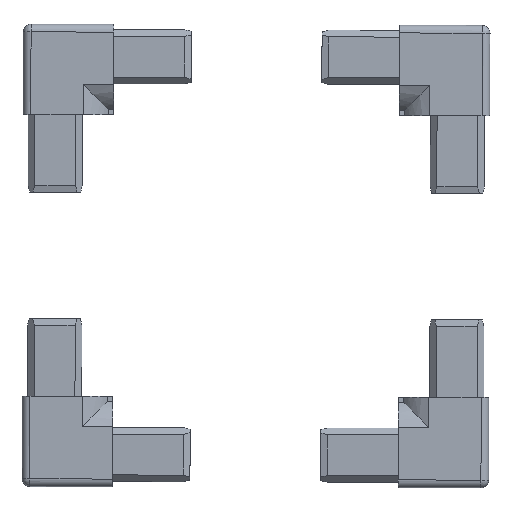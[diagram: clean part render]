
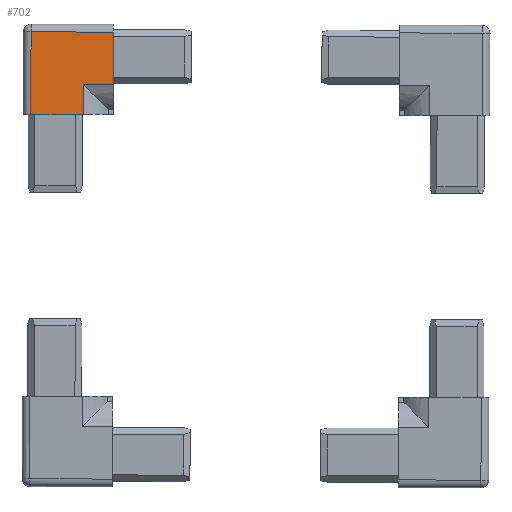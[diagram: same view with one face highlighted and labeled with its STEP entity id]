
A CAD part, left-side view. The second image highlights one B-rep face of the part: STEP entity #702.
In plain terms, the highlighted planar face has unit normal (-1, 0, 0) as drawn and (0, 0, -1) by its records, which use the part's own axes.
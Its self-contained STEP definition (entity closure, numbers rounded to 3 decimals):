
#4 = LINE ( 'NONE', #841, #888 ) ;
#110 = DIRECTION ( 'NONE',  ( 0., 0., 1. ) ) ;
#130 = CARTESIAN_POINT ( 'NONE',  ( -22.5, -12.5, -12.5 ) ) ;
#196 = VERTEX_POINT ( 'NONE', #2176 ) ;
#249 = ORIENTED_EDGE ( 'NONE', *, *, #1164, .F. ) ;
#329 = EDGE_CURVE ( 'NONE', #2478, #1661, #2262, .T. ) ;
#357 = VECTOR ( 'NONE', #2693, 1000. ) ;
#387 = CARTESIAN_POINT ( 'NONE',  ( 12.5, 22.5, -12.5 ) ) ;
#409 = LINE ( 'NONE', #652, #1225 ) ;
#434 = ORIENTED_EDGE ( 'NONE', *, *, #329, .F. ) ;
#601 = ORIENTED_EDGE ( 'NONE', *, *, #1742, .T. ) ;
#649 = AXIS2_PLACEMENT_3D ( 'NONE', #2888, #110, #2618 ) ;
#652 = CARTESIAN_POINT ( 'NONE',  ( 12.5, -9.5, -12.5 ) ) ;
#663 = ORIENTED_EDGE ( 'NONE', *, *, #1871, .F. ) ;
#702 = ADVANCED_FACE ( 'NONE', ( #2822 ), #2548, .F. ) ;
#763 = DIRECTION ( 'NONE',  ( 0., -1., 0. ) ) ;
#841 = CARTESIAN_POINT ( 'NONE',  ( -10.823, -0.74, -12.5 ) ) ;
#879 = LINE ( 'NONE', #130, #357 ) ;
#888 = VECTOR ( 'NONE', #1583, 1000. ) ;
#1066 = LINE ( 'NONE', #2768, #2836 ) ;
#1164 = EDGE_CURVE ( 'NONE', #1527, #2620, #879, .T. ) ;
#1225 = VECTOR ( 'NONE', #1835, 1000. ) ;
#1237 = LINE ( 'NONE', #2855, #2208 ) ;
#1526 = DIRECTION ( 'NONE',  ( -1., 0., 0. ) ) ;
#1527 = VERTEX_POINT ( 'NONE', #2424 ) ;
#1583 = DIRECTION ( 'NONE',  ( 0., 1., 0. ) ) ;
#1661 = VERTEX_POINT ( 'NONE', #2701 ) ;
#1742 = EDGE_CURVE ( 'NONE', #196, #1661, #4, .T. ) ;
#1835 = DIRECTION ( 'NONE',  ( -1., 0., 0. ) ) ;
#1845 = EDGE_CURVE ( 'NONE', #2839, #2620, #409, .T. ) ;
#1851 = CARTESIAN_POINT ( 'NONE',  ( 9.5, 22.5, -12.5 ) ) ;
#1871 = EDGE_CURVE ( 'NONE', #196, #1527, #1066, .T. ) ;
#1952 = VECTOR ( 'NONE', #2009, 1000. ) ;
#2009 = DIRECTION ( 'NONE',  ( -1., 0., 0. ) ) ;
#2174 = EDGE_LOOP ( 'NONE', ( #2705, #2510, #249, #663, #601, #434 ) ) ;
#2176 = CARTESIAN_POINT ( 'NONE',  ( -10.823, 10.823, -12.5 ) ) ;
#2208 = VECTOR ( 'NONE', #763, 1000. ) ;
#2262 = LINE ( 'NONE', #387, #1952 ) ;
#2424 = CARTESIAN_POINT ( 'NONE',  ( -22.5, 10.823, -12.5 ) ) ;
#2478 = VERTEX_POINT ( 'NONE', #1851 ) ;
#2510 = ORIENTED_EDGE ( 'NONE', *, *, #1845, .T. ) ;
#2548 = PLANE ( 'NONE',  #649 ) ;
#2618 = DIRECTION ( 'NONE',  ( 1., 0., 0. ) ) ;
#2620 = VERTEX_POINT ( 'NONE', #2882 ) ;
#2693 = DIRECTION ( 'NONE',  ( 0., -1., 0. ) ) ;
#2700 = EDGE_CURVE ( 'NONE', #2478, #2839, #1237, .T. ) ;
#2701 = CARTESIAN_POINT ( 'NONE',  ( -10.823, 22.5, -12.5 ) ) ;
#2705 = ORIENTED_EDGE ( 'NONE', *, *, #2700, .T. ) ;
#2768 = CARTESIAN_POINT ( 'NONE',  ( 0.74, 10.823, -12.5 ) ) ;
#2822 = FACE_OUTER_BOUND ( 'NONE', #2174, .T. ) ;
#2836 = VECTOR ( 'NONE', #1526, 1000. ) ;
#2839 = VERTEX_POINT ( 'NONE', #2956 ) ;
#2855 = CARTESIAN_POINT ( 'NONE',  ( 9.5, -12.5, -12.5 ) ) ;
#2882 = CARTESIAN_POINT ( 'NONE',  ( -22.5, -9.5, -12.5 ) ) ;
#2888 = CARTESIAN_POINT ( 'NONE',  ( 12.5, -12.5, -12.5 ) ) ;
#2956 = CARTESIAN_POINT ( 'NONE',  ( 9.5, -9.5, -12.5 ) ) ;
